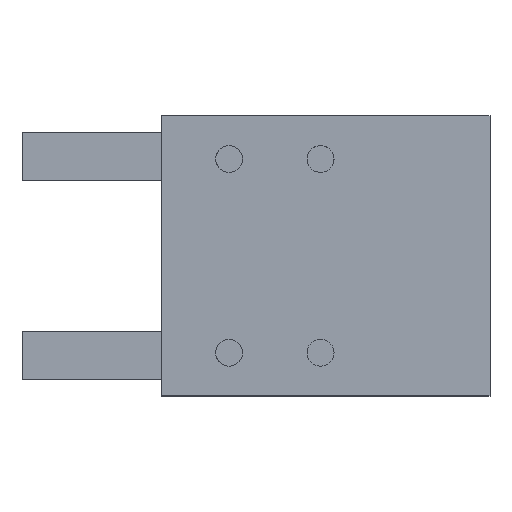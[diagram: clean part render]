
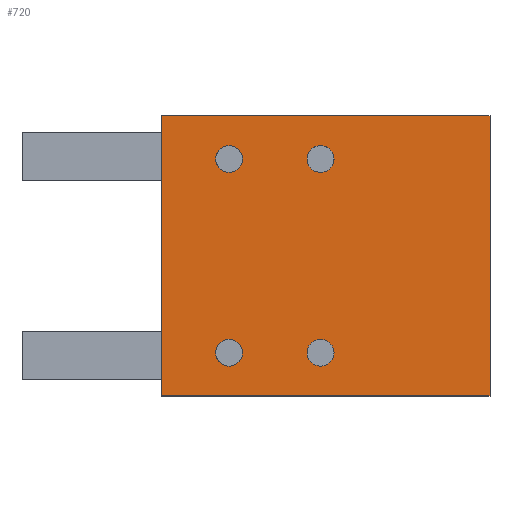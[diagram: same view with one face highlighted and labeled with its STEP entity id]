
A CAD part, top view. The second image highlights one B-rep face of the part: STEP entity #720.
In plain terms, the highlighted planar face has unit normal (0, 0, 1).
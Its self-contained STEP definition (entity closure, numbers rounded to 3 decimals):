
#35 = VERTEX_POINT ( 'NONE', #3933 ) ;
#66 = VECTOR ( 'NONE', #1400, 1000. ) ;
#83 = ORIENTED_EDGE ( 'NONE', *, *, #2044, .F. ) ;
#144 = FACE_BOUND ( 'NONE', #2642, .T. ) ;
#354 = CARTESIAN_POINT ( 'NONE',  ( -15.5, 18., 16. ) ) ;
#379 = CIRCLE ( 'NONE', #3558, 2.5 ) ;
#426 = FACE_BOUND ( 'NONE', #2076, .T. ) ;
#454 = EDGE_LOOP ( 'NONE', ( #3840, #1084 ) ) ;
#456 = LINE ( 'NONE', #3036, #3688 ) ;
#495 = AXIS2_PLACEMENT_3D ( 'NONE', #1829, #1816, #1809 ) ;
#523 = FACE_BOUND ( 'NONE', #1065, .T. ) ;
#618 = EDGE_CURVE ( 'NONE', #3138, #2898, #379, .T. ) ;
#639 = DIRECTION ( 'NONE',  ( 1., 0., 0. ) ) ;
#644 = DIRECTION ( 'NONE',  ( 0., 0., 1. ) ) ;
#666 = CARTESIAN_POINT ( 'NONE',  ( -18., -18., 16. ) ) ;
#684 = FACE_BOUND ( 'NONE', #454, .T. ) ;
#696 = AXIS2_PLACEMENT_3D ( 'NONE', #2312, #2302, #2267 ) ;
#720 = ADVANCED_FACE ( 'NONE', ( #523, #144, #426, #684, #3648 ), #3978, .T. ) ;
#723 = AXIS2_PLACEMENT_3D ( 'NONE', #1323, #1312, #1306 ) ;
#827 = VERTEX_POINT ( 'NONE', #3902 ) ;
#828 = DIRECTION ( 'NONE',  ( 0., 1., 0. ) ) ;
#831 = VERTEX_POINT ( 'NONE', #3870 ) ;
#840 = AXIS2_PLACEMENT_3D ( 'NONE', #3152, #3232, #3488 ) ;
#845 = AXIS2_PLACEMENT_3D ( 'NONE', #1779, #3928, #2077 ) ;
#857 = CIRCLE ( 'NONE', #840, 2.5 ) ;
#895 = CARTESIAN_POINT ( 'NONE',  ( -20.5, 18., 16. ) ) ;
#899 = ORIENTED_EDGE ( 'NONE', *, *, #3968, .F. ) ;
#921 = CARTESIAN_POINT ( 'NONE',  ( -15.5, -18., 16. ) ) ;
#977 = CARTESIAN_POINT ( 'NONE',  ( 30.5, -26., 16. ) ) ;
#1000 = CIRCLE ( 'NONE', #3719, 2.5 ) ;
#1030 = EDGE_CURVE ( 'NONE', #2898, #3138, #1956, .T. ) ;
#1065 = EDGE_LOOP ( 'NONE', ( #1284, #3186 ) ) ;
#1081 = CARTESIAN_POINT ( 'NONE',  ( -30.5, 26., 16. ) ) ;
#1084 = ORIENTED_EDGE ( 'NONE', *, *, #1145, .F. ) ;
#1145 = EDGE_CURVE ( 'NONE', #827, #2461, #2479, .T. ) ;
#1153 = EDGE_LOOP ( 'NONE', ( #3560, #2000, #2897, #2977 ) ) ;
#1216 = ORIENTED_EDGE ( 'NONE', *, *, #618, .F. ) ;
#1284 = ORIENTED_EDGE ( 'NONE', *, *, #1613, .F. ) ;
#1306 = DIRECTION ( 'NONE',  ( 1., 0., 0. ) ) ;
#1312 = DIRECTION ( 'NONE',  ( 0., 0., 1. ) ) ;
#1323 = CARTESIAN_POINT ( 'NONE',  ( -1., -18., 16. ) ) ;
#1392 = EDGE_CURVE ( 'NONE', #2461, #827, #857, .T. ) ;
#1400 = DIRECTION ( 'NONE',  ( 0., 1., 0. ) ) ;
#1408 = LINE ( 'NONE', #1721, #3086 ) ;
#1448 = CARTESIAN_POINT ( 'NONE',  ( 30.5, 26., 16. ) ) ;
#1471 = EDGE_CURVE ( 'NONE', #831, #3661, #1408, .T. ) ;
#1584 = DIRECTION ( 'NONE',  ( 0., 0., 1. ) ) ;
#1594 = AXIS2_PLACEMENT_3D ( 'NONE', #3322, #3292, #3288 ) ;
#1613 = EDGE_CURVE ( 'NONE', #1819, #1736, #2476, .T. ) ;
#1721 = CARTESIAN_POINT ( 'NONE',  ( 30.5, 26., 16. ) ) ;
#1736 = VERTEX_POINT ( 'NONE', #895 ) ;
#1779 = CARTESIAN_POINT ( 'NONE',  ( -1., 18., 16. ) ) ;
#1809 = DIRECTION ( 'NONE',  ( 1., 0., 0. ) ) ;
#1816 = DIRECTION ( 'NONE',  ( 0., 0., 1. ) ) ;
#1819 = VERTEX_POINT ( 'NONE', #354 ) ;
#1829 = CARTESIAN_POINT ( 'NONE',  ( -18., -18., 16. ) ) ;
#1948 = CIRCLE ( 'NONE', #696, 2.5 ) ;
#1956 = CIRCLE ( 'NONE', #495, 2.5 ) ;
#2000 = ORIENTED_EDGE ( 'NONE', *, *, #2006, .F. ) ;
#2006 = EDGE_CURVE ( 'NONE', #2736, #35, #456, .T. ) ;
#2044 = EDGE_CURVE ( 'NONE', #3946, #3356, #1948, .T. ) ;
#2076 = EDGE_LOOP ( 'NONE', ( #83, #899 ) ) ;
#2077 = DIRECTION ( 'NONE',  ( 1., 0., 0. ) ) ;
#2134 = CARTESIAN_POINT ( 'NONE',  ( -3.5, 18., 16. ) ) ;
#2176 = VECTOR ( 'NONE', #828, 1000. ) ;
#2267 = DIRECTION ( 'NONE',  ( 1., 0., 0. ) ) ;
#2302 = DIRECTION ( 'NONE',  ( 0., 0., 1. ) ) ;
#2312 = CARTESIAN_POINT ( 'NONE',  ( -1., 18., 16. ) ) ;
#2461 = VERTEX_POINT ( 'NONE', #2480 ) ;
#2476 = CIRCLE ( 'NONE', #2523, 2.5 ) ;
#2479 = CIRCLE ( 'NONE', #723, 2.5 ) ;
#2480 = CARTESIAN_POINT ( 'NONE',  ( 1.5, -18., 16. ) ) ;
#2510 = LINE ( 'NONE', #1081, #66 ) ;
#2523 = AXIS2_PLACEMENT_3D ( 'NONE', #2650, #2639, #2631 ) ;
#2559 = ORIENTED_EDGE ( 'NONE', *, *, #1030, .F. ) ;
#2631 = DIRECTION ( 'NONE',  ( 1., 0., 0. ) ) ;
#2639 = DIRECTION ( 'NONE',  ( 0., 0., 1. ) ) ;
#2642 = EDGE_LOOP ( 'NONE', ( #2559, #1216 ) ) ;
#2650 = CARTESIAN_POINT ( 'NONE',  ( -18., 18., 16. ) ) ;
#2693 = CARTESIAN_POINT ( 'NONE',  ( 1.5, 18., 16. ) ) ;
#2730 = EDGE_CURVE ( 'NONE', #2736, #831, #3025, .T. ) ;
#2736 = VERTEX_POINT ( 'NONE', #977 ) ;
#2763 = DIRECTION ( 'NONE',  ( -1., 0., 0. ) ) ;
#2897 = ORIENTED_EDGE ( 'NONE', *, *, #2730, .T. ) ;
#2898 = VERTEX_POINT ( 'NONE', #921 ) ;
#2977 = ORIENTED_EDGE ( 'NONE', *, *, #1471, .T. ) ;
#3025 = LINE ( 'NONE', #1448, #2176 ) ;
#3036 = CARTESIAN_POINT ( 'NONE',  ( 30.5, -26., 16. ) ) ;
#3086 = VECTOR ( 'NONE', #4037, 1000. ) ;
#3138 = VERTEX_POINT ( 'NONE', #3537 ) ;
#3152 = CARTESIAN_POINT ( 'NONE',  ( -1., -18., 16. ) ) ;
#3186 = ORIENTED_EDGE ( 'NONE', *, *, #3620, .F. ) ;
#3232 = DIRECTION ( 'NONE',  ( 0., 0., 1. ) ) ;
#3288 = DIRECTION ( 'NONE',  ( 1., 0., 0. ) ) ;
#3292 = DIRECTION ( 'NONE',  ( 0., 0., 1. ) ) ;
#3322 = CARTESIAN_POINT ( 'NONE',  ( 30.5, 26., 16. ) ) ;
#3356 = VERTEX_POINT ( 'NONE', #2134 ) ;
#3463 = CARTESIAN_POINT ( 'NONE',  ( -18., 18., 16. ) ) ;
#3488 = DIRECTION ( 'NONE',  ( 1., 0., 0. ) ) ;
#3537 = CARTESIAN_POINT ( 'NONE',  ( -20.5, -18., 16. ) ) ;
#3558 = AXIS2_PLACEMENT_3D ( 'NONE', #666, #644, #639 ) ;
#3560 = ORIENTED_EDGE ( 'NONE', *, *, #3868, .F. ) ;
#3620 = EDGE_CURVE ( 'NONE', #1736, #1819, #1000, .T. ) ;
#3648 = FACE_OUTER_BOUND ( 'NONE', #1153, .T. ) ;
#3661 = VERTEX_POINT ( 'NONE', #3756 ) ;
#3688 = VECTOR ( 'NONE', #2763, 1000. ) ;
#3719 = AXIS2_PLACEMENT_3D ( 'NONE', #3463, #1584, #3746 ) ;
#3746 = DIRECTION ( 'NONE',  ( 1., 0., 0. ) ) ;
#3756 = CARTESIAN_POINT ( 'NONE',  ( -30.5, 26., 16. ) ) ;
#3840 = ORIENTED_EDGE ( 'NONE', *, *, #1392, .F. ) ;
#3855 = CIRCLE ( 'NONE', #845, 2.5 ) ;
#3868 = EDGE_CURVE ( 'NONE', #35, #3661, #2510, .T. ) ;
#3870 = CARTESIAN_POINT ( 'NONE',  ( 30.5, 26., 16. ) ) ;
#3902 = CARTESIAN_POINT ( 'NONE',  ( -3.5, -18., 16. ) ) ;
#3928 = DIRECTION ( 'NONE',  ( 0., 0., 1. ) ) ;
#3933 = CARTESIAN_POINT ( 'NONE',  ( -30.5, -26., 16. ) ) ;
#3946 = VERTEX_POINT ( 'NONE', #2693 ) ;
#3968 = EDGE_CURVE ( 'NONE', #3356, #3946, #3855, .T. ) ;
#3978 = PLANE ( 'NONE',  #1594 ) ;
#4037 = DIRECTION ( 'NONE',  ( -1., 0., 0. ) ) ;
